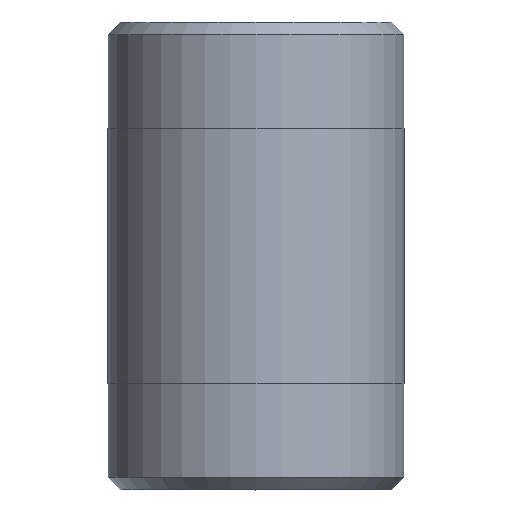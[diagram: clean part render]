
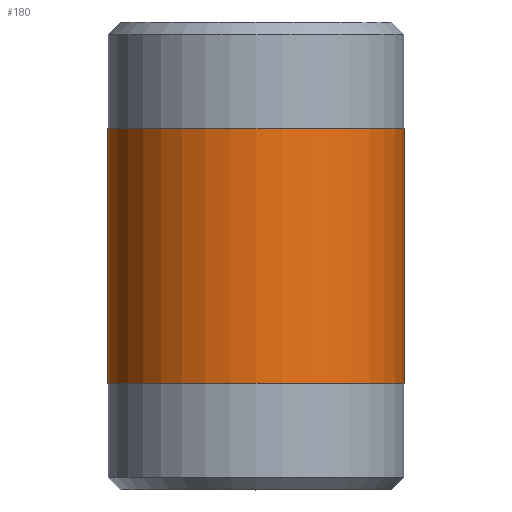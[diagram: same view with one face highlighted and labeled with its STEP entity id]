
A CAD part, top view. The second image highlights one B-rep face of the part: STEP entity #180.
In plain terms, the highlighted cylindrical face has radius 24.13 mm (diameter 48.26 mm), a full revolution.
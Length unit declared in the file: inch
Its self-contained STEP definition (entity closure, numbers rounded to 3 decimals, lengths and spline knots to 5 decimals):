
#25=CYLINDRICAL_SURFACE('',#220,0.95);
#34=FACE_OUTER_BOUND('',#47,.T.);
#47=EDGE_LOOP('',(#155,#156,#157,#158,#159,#160));
#55=LINE('',#338,#61);
#61=VECTOR('',#283,0.95);
#77=CIRCLE('',#218,0.95);
#78=CIRCLE('',#219,0.95);
#79=CIRCLE('',#221,0.95);
#80=CIRCLE('',#222,0.95);
#95=VERTEX_POINT('',#329);
#96=VERTEX_POINT('',#330);
#97=VERTEX_POINT('',#334);
#98=VERTEX_POINT('',#335);
#117=EDGE_CURVE('',#95,#96,#77,.T.);
#118=EDGE_CURVE('',#96,#95,#78,.T.);
#119=EDGE_CURVE('',#97,#98,#79,.T.);
#120=EDGE_CURVE('',#98,#97,#80,.T.);
#121=EDGE_CURVE('',#98,#96,#55,.T.);
#155=ORIENTED_EDGE('',*,*,#119,.F.);
#156=ORIENTED_EDGE('',*,*,#120,.F.);
#157=ORIENTED_EDGE('',*,*,#121,.T.);
#158=ORIENTED_EDGE('',*,*,#118,.T.);
#159=ORIENTED_EDGE('',*,*,#117,.T.);
#160=ORIENTED_EDGE('',*,*,#121,.F.);
#180=ADVANCED_FACE('',(#34),#25,.T.);
#218=AXIS2_PLACEMENT_3D('',#331,#273,#274);
#219=AXIS2_PLACEMENT_3D('',#332,#275,#276);
#220=AXIS2_PLACEMENT_3D('',#333,#277,#278);
#221=AXIS2_PLACEMENT_3D('',#336,#279,#280);
#222=AXIS2_PLACEMENT_3D('',#337,#281,#282);
#273=DIRECTION('center_axis',(0.,-1.,0.));
#274=DIRECTION('ref_axis',(1.,0.,0.));
#275=DIRECTION('center_axis',(0.,-1.,0.));
#276=DIRECTION('ref_axis',(1.,0.,0.));
#277=DIRECTION('center_axis',(0.,-1.,0.));
#278=DIRECTION('ref_axis',(0.,0.,-1.));
#279=DIRECTION('center_axis',(0.,-1.,0.));
#280=DIRECTION('ref_axis',(1.,0.,0.));
#281=DIRECTION('center_axis',(0.,-1.,0.));
#282=DIRECTION('ref_axis',(1.,0.,0.));
#283=DIRECTION('',(0.,1.,0.));
#329=CARTESIAN_POINT('',(0.,2.319,-0.95));
#330=CARTESIAN_POINT('',(0.,2.319,0.95));
#331=CARTESIAN_POINT('Origin',(0.,2.319,0.));
#332=CARTESIAN_POINT('Origin',(0.,2.319,0.));
#333=CARTESIAN_POINT('Origin',(0.,1.5,0.));
#334=CARTESIAN_POINT('',(0.,0.681,-0.95));
#335=CARTESIAN_POINT('',(0.,0.681,0.95));
#336=CARTESIAN_POINT('Origin',(0.,0.681,0.));
#337=CARTESIAN_POINT('Origin',(0.,0.681,0.));
#338=CARTESIAN_POINT('',(0.,1.5,0.95));
